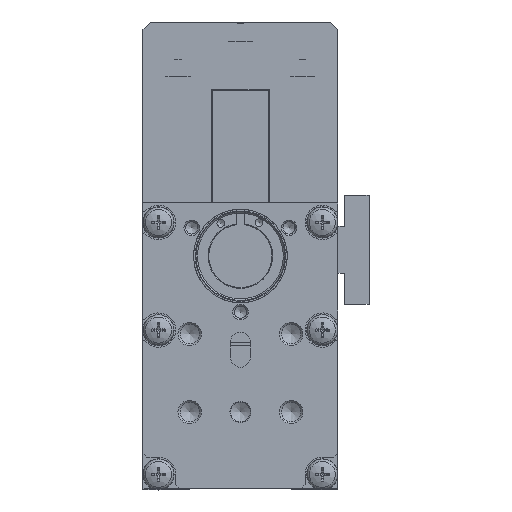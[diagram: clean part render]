
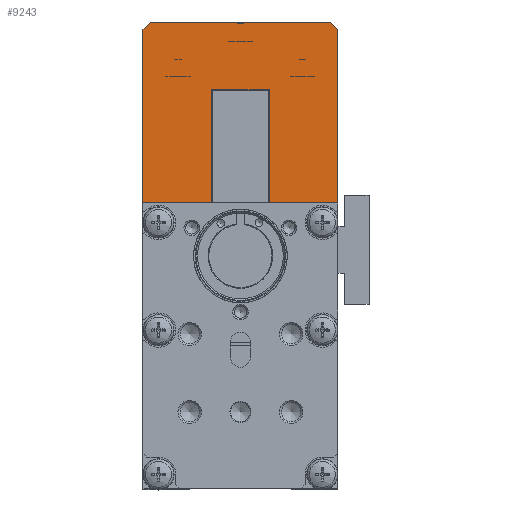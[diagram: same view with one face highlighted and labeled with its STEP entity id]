
A CAD part, front view. The second image highlights one B-rep face of the part: STEP entity #9243.
In plain terms, the highlighted planar face has unit normal (0, -1, 0) as drawn and (0, 0, 1) by its records, which use the part's own axes.
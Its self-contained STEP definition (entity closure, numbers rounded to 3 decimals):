
#8405=CARTESIAN_POINT('',(-14.5,8.8,279.5));
#8406=VERTEX_POINT('',#8405);
#8413=CARTESIAN_POINT('',(0.,8.8,279.5));
#8414=VERTEX_POINT('',#8413);
#8415=CARTESIAN_POINT('',(0.,8.8,279.5));
#8416=DIRECTION('',(-1.0,0.0,0.0));
#8417=VECTOR('',#8416,14.5);
#8418=LINE('',#8415,#8417);
#8419=EDGE_CURVE('',#8414,#8406,#8418,.T.);
#8436=CARTESIAN_POINT('',(-14.5,16.2,279.5));
#8437=VERTEX_POINT('',#8436);
#8444=CARTESIAN_POINT('',(-14.5,8.8,279.5));
#8445=DIRECTION('',(0.0,1.0,0.0));
#8446=VECTOR('',#8445,7.4);
#8447=LINE('',#8444,#8446);
#8448=EDGE_CURVE('',#8406,#8437,#8447,.T.);
#8471=CARTESIAN_POINT('',(0.,16.2,279.5));
#8472=VERTEX_POINT('',#8471);
#8479=CARTESIAN_POINT('',(-14.5,16.2,279.5));
#8480=DIRECTION('',(1.0,0.0,0.0));
#8481=VECTOR('',#8480,14.5);
#8482=LINE('',#8479,#8481);
#8483=EDGE_CURVE('',#8437,#8472,#8482,.T.);
#8496=CARTESIAN_POINT('',(0.,25.,279.5));
#8497=VERTEX_POINT('',#8496);
#8512=CARTESIAN_POINT('',(-22.2,25.,279.5));
#8513=VERTEX_POINT('',#8512);
#8520=CARTESIAN_POINT('',(-22.2,25.,279.5));
#8521=DIRECTION('',(1.0,0.0,0.0));
#8522=VECTOR('',#8521,22.2);
#8523=LINE('',#8520,#8522);
#8524=EDGE_CURVE('',#8513,#8497,#8523,.T.);
#8536=CARTESIAN_POINT('',(0.0,0.0,279.5));
#8537=VERTEX_POINT('',#8536);
#8538=CARTESIAN_POINT('',(0.,8.8,279.5));
#8539=DIRECTION('',(0.0,-1.0,0.0));
#8540=VECTOR('',#8539,8.8);
#8541=LINE('',#8538,#8540);
#8542=EDGE_CURVE('',#8414,#8537,#8541,.T.);
#8582=CARTESIAN_POINT('',(0.,25.,279.5));
#8583=DIRECTION('',(0.0,-1.0,0.0));
#8584=VECTOR('',#8583,8.8);
#8585=LINE('',#8582,#8584);
#8586=EDGE_CURVE('',#8497,#8472,#8585,.T.);
#9200=CARTESIAN_POINT('',(-11.6,12.5,279.5));
#9201=DIRECTION('',(0.0,0.0,1.0));
#9202=DIRECTION('',(1.0,0.0,0.0));
#9203=AXIS2_PLACEMENT_3D('',#9200,#9201,#9202);
#9204=PLANE('',#9203);
#9205=ORIENTED_EDGE('',*,*,#8419,.T.);
#9206=ORIENTED_EDGE('',*,*,#8448,.T.);
#9207=ORIENTED_EDGE('',*,*,#8483,.T.);
#9208=ORIENTED_EDGE('',*,*,#8586,.F.);
#9209=ORIENTED_EDGE('',*,*,#8524,.F.);
#9210=CARTESIAN_POINT('',(-23.2,24.,279.5));
#9211=VERTEX_POINT('',#9210);
#9212=CARTESIAN_POINT('',(-23.2,24.,279.5));
#9213=DIRECTION('',(0.707,0.707,0.0));
#9214=VECTOR('',#9213,1.414);
#9215=LINE('',#9212,#9214);
#9216=EDGE_CURVE('',#9211,#8513,#9215,.T.);
#9217=ORIENTED_EDGE('',*,*,#9216,.F.);
#9218=CARTESIAN_POINT('',(-23.2,1.,279.5));
#9219=VERTEX_POINT('',#9218);
#9220=CARTESIAN_POINT('',(-23.2,1.,279.5));
#9221=DIRECTION('',(0.0,1.0,0.0));
#9222=VECTOR('',#9221,23.);
#9223=LINE('',#9220,#9222);
#9224=EDGE_CURVE('',#9219,#9211,#9223,.T.);
#9225=ORIENTED_EDGE('',*,*,#9224,.F.);
#9226=CARTESIAN_POINT('',(-22.2,0.,279.5));
#9227=VERTEX_POINT('',#9226);
#9228=CARTESIAN_POINT('',(-22.2,0.,279.5));
#9229=DIRECTION('',(-0.707,0.707,0.0));
#9230=VECTOR('',#9229,1.414);
#9231=LINE('',#9228,#9230);
#9232=EDGE_CURVE('',#9227,#9219,#9231,.T.);
#9233=ORIENTED_EDGE('',*,*,#9232,.F.);
#9234=CARTESIAN_POINT('',(0.0,0.0,279.5));
#9235=DIRECTION('',(-1.0,0.0,0.0));
#9236=VECTOR('',#9235,22.2);
#9237=LINE('',#9234,#9236);
#9238=EDGE_CURVE('',#8537,#9227,#9237,.T.);
#9239=ORIENTED_EDGE('',*,*,#9238,.F.);
#9240=ORIENTED_EDGE('',*,*,#8542,.F.);
#9241=EDGE_LOOP('',(#9205,#9206,#9207,#9208,#9209,#9217,#9225,#9233,#9239,#9240));
#9242=FACE_OUTER_BOUND('',#9241,.T.);
#9243=ADVANCED_FACE('',(#9242),#9204,.T.);
